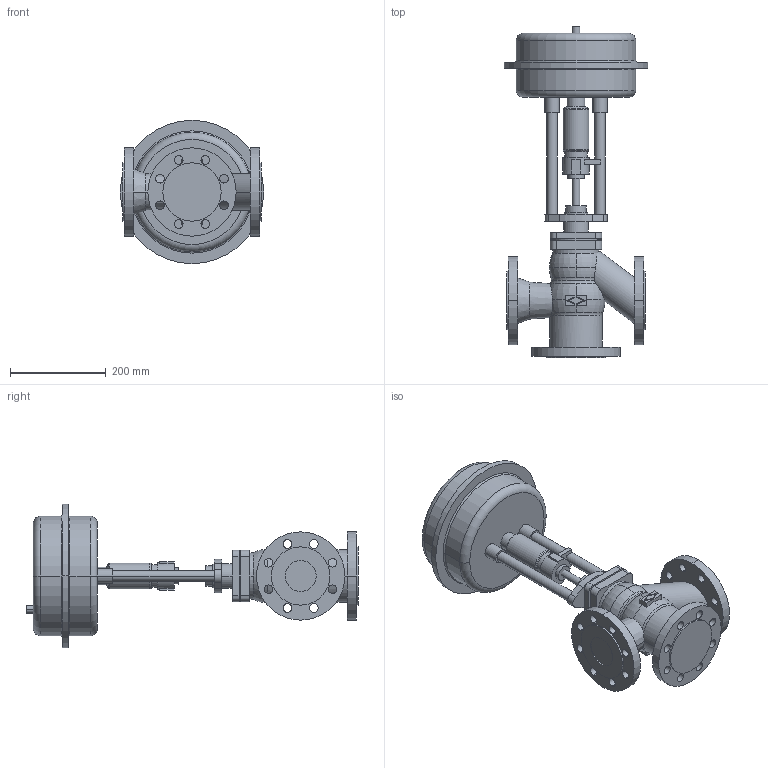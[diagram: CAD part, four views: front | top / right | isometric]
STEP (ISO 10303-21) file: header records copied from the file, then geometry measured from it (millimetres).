
FILE_DESCRIPTION(('OneSpaceDesigner STEP Export'),'2;1');
FILE_NAME('c000000675.stp','2006-09-19T10:07:53',(''),(''),'OneSpace Designer STEP processor for AP214 (Solid Model)','OneSpace Designer 13.20A 18-Aug-2005 (C) CoCreate Software GmbH','');
FILE_SCHEMA(('AUTOMOTIVE_DESIGN { 1 0 10303 214 1 1 1 1 }'));
Length unit declared in the file: millimetre
Products named in the file (2): 1; 2
Bounding box: 300 x 695.1 x 300 mm (x, y, z)
Volume: 12225666 mm3; surface area: 661127.3 mm2
Topology: 2 solids, 2 shells, 241 faces, 609 edges, 400 vertices
Faces by surface type: cylinder 118, plane 81, torus 34, cone 8
Entity records: 6485 total; most frequent: ORIENTED_EDGE 1218, CARTESIAN_POINT 1210, DIRECTION 932, EDGE_CURVE 609, VERTEX_POINT 400, AXIS2_PLACEMENT_3D 344, EDGE_LOOP 317, VECTOR 244
